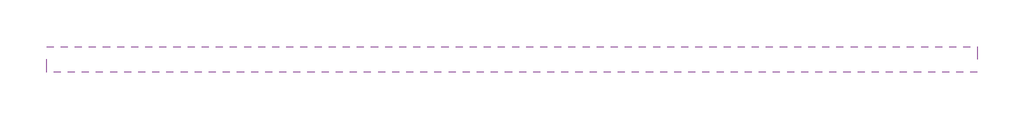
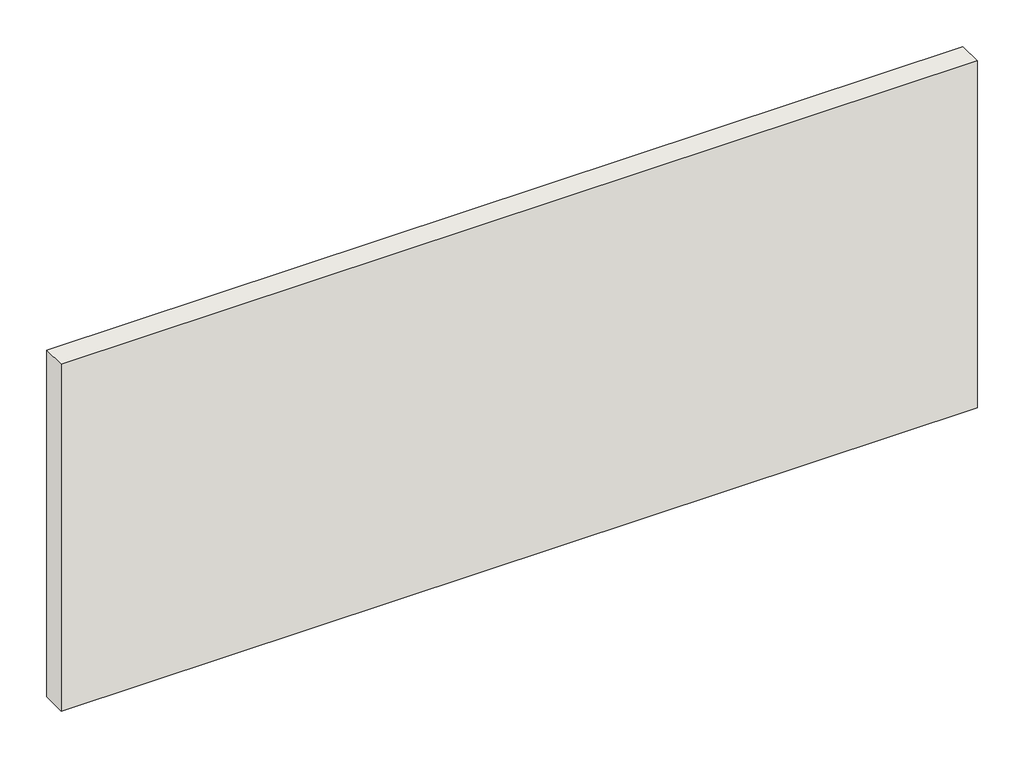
# One storey: 1 wall.
"""IFC4 building model written with IfcOpenShell, lengths in millimetres."""

from ifc_helpers import new_model, si_unit, frame, origin, place, context, project, spatial, polyline, outline, extrude, element, save

model = new_model("IFC4")

# Units and contexts
model_context = context("Model", 3, world=origin())
ifc_project = project(units=[si_unit("LENGTHUNIT", "METRE", prefix="MILLI")], contexts=[model_context])

# Site, building, storey
site = spatial("IfcSite", under=ifc_project)
building = spatial("IfcBuilding", under=site)
storey = spatial("IfcBuildingStorey", under=building, Name="TPFYY/15-12-40-12", Elevation=0.0)

# Wall
placement = place(None, origin())
element("IfcWall", 1, ObjectType="Construction_Thermochip_WALL_TPFYY/ 15-12-40-12 (3000 X 1200)", at=placement, inside=storey, context=model_context, shape_type="SweptSolid", body=[
    extrude(outline(polyline([(48216.6663638, -56228.1444819), (45216.6663638, -56228.1444819), (45216.6663638, -56146.1444819), (48216.6663638, -56146.1444819), (48216.6663638, -56228.1444819)])), frame((0.0, 0.0, 2800.0), z_axis=(0.0, 0.0, 1.0), x_axis=(1.0, 0.0, 0.0)), (0.0, 0.0, 1.0), 1200.0),
])

save(model, "model.ifc")
